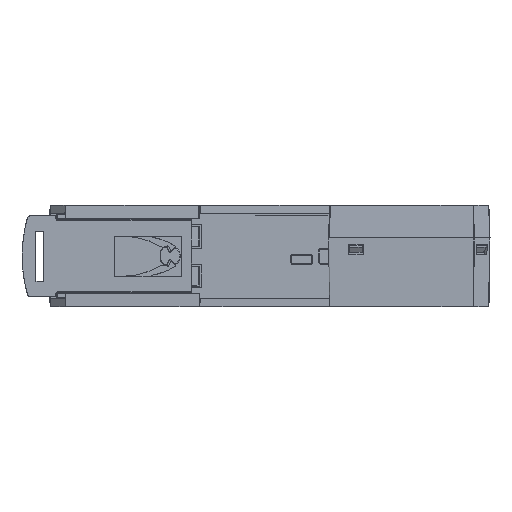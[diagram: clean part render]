
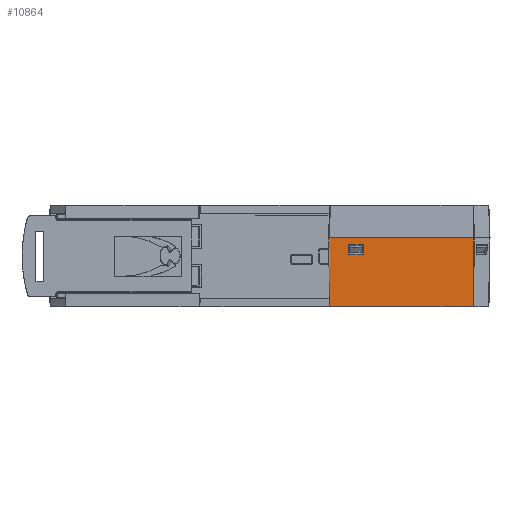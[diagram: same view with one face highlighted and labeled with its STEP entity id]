
A CAD part, front view. The second image highlights one B-rep face of the part: STEP entity #10864.
In plain terms, the highlighted planar face has unit normal (0, -1, -0.018).
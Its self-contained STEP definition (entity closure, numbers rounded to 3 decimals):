
#537 = ORIENTED_EDGE ( 'NONE', *, *, #7679, .F. ) ;
#1053 = CARTESIAN_POINT ( 'NONE',  ( -27.329, -25.719, 4.5 ) ) ;
#1827 = VECTOR ( 'NONE', #14982, 1000. ) ;
#4950 = LINE ( 'NONE', #67375, #137863 ) ;
#5033 = VERTEX_POINT ( 'NONE', #91312 ) ;
#6038 = LINE ( 'NONE', #105195, #73596 ) ;
#7679 = EDGE_CURVE ( 'NONE', #13265, #5033, #121972, .T. ) ;
#8924 = LINE ( 'NONE', #88562, #145239 ) ;
#8986 = VERTEX_POINT ( 'NONE', #41109 ) ;
#9942 = ORIENTED_EDGE ( 'NONE', *, *, #135757, .T. ) ;
#10864 = ADVANCED_FACE ( 'NONE', ( #143639, #156925 ), #144447, .T. ) ;
#13265 = VERTEX_POINT ( 'NONE', #113356 ) ;
#13309 = CARTESIAN_POINT ( 'NONE',  ( -42.229, -25.719, 4.5 ) ) ;
#14982 = DIRECTION ( 'NONE',  ( -1., 0., 0. ) ) ;
#15820 = DIRECTION ( 'NONE',  ( 1., 0., 0. ) ) ;
#17932 = AXIS2_PLACEMENT_3D ( 'NONE', #77837, #39579, #80300 ) ;
#29086 = LINE ( 'NONE', #13309, #1827 ) ;
#32249 = DIRECTION ( 'NONE',  ( -1., 0., 0. ) ) ;
#33772 = VERTEX_POINT ( 'NONE', #1053 ) ;
#35826 = LINE ( 'NONE', #87439, #124347 ) ;
#38034 = VERTEX_POINT ( 'NONE', #71640 ) ;
#38630 = VECTOR ( 'NONE', #105347, 1000. ) ;
#39579 = DIRECTION ( 'NONE',  ( 0., -1., -0.017 ) ) ;
#40587 = ORIENTED_EDGE ( 'NONE', *, *, #79573, .T. ) ;
#41109 = CARTESIAN_POINT ( 'NONE',  ( -22.529, -25.691, 2.9 ) ) ;
#46930 = ORIENTED_EDGE ( 'NONE', *, *, #65934, .F. ) ;
#47913 = VERTEX_POINT ( 'NONE', #107353 ) ;
#48059 = DIRECTION ( 'NONE',  ( 0.007, -0.017, 1. ) ) ;
#48650 = EDGE_LOOP ( 'NONE', ( #9942, #40587, #55765, #95458 ) ) ;
#48746 = LINE ( 'NONE', #64518, #38630 ) ;
#55765 = ORIENTED_EDGE ( 'NONE', *, *, #63096, .T. ) ;
#63096 = EDGE_CURVE ( 'NONE', #38034, #47913, #35826, .T. ) ;
#64518 = CARTESIAN_POINT ( 'NONE',  ( -27.029, -25.419, -12.697 ) ) ;
#65934 = EDGE_CURVE ( 'NONE', #78461, #13265, #4950, .T. ) ;
#67375 = CARTESIAN_POINT ( 'NONE',  ( -42.229, -25.646, 0.3 ) ) ;
#71144 = DIRECTION ( 'NONE',  ( 0., -0.017, 1. ) ) ;
#71640 = CARTESIAN_POINT ( 'NONE',  ( -27.029, -25.419, -12.7 ) ) ;
#73596 = VECTOR ( 'NONE', #107625, 1000. ) ;
#75740 = DIRECTION ( 'NONE',  ( 1., 0., 0. ) ) ;
#77837 = CARTESIAN_POINT ( 'NONE',  ( -42.229, -25.719, 4.5 ) ) ;
#78461 = VERTEX_POINT ( 'NONE', #92607 ) ;
#79573 = EDGE_CURVE ( 'NONE', #33772, #38034, #48746, .T. ) ;
#80300 = DIRECTION ( 'NONE',  ( 0., 0.017, -1. ) ) ;
#84738 = LINE ( 'NONE', #123045, #148425 ) ;
#87439 = CARTESIAN_POINT ( 'NONE',  ( -42.229, -25.419, -12.7 ) ) ;
#88562 = CARTESIAN_POINT ( 'NONE',  ( -42.229, -25.691, 2.9 ) ) ;
#90056 = VERTEX_POINT ( 'NONE', #91120 ) ;
#90378 = ORIENTED_EDGE ( 'NONE', *, *, #119317, .F. ) ;
#91120 = CARTESIAN_POINT ( 'NONE',  ( 8.688, -25.719, 4.5 ) ) ;
#91312 = CARTESIAN_POINT ( 'NONE',  ( -18.829, -25.691, 2.9 ) ) ;
#92607 = CARTESIAN_POINT ( 'NONE',  ( -22.529, -25.646, 0.3 ) ) ;
#95458 = ORIENTED_EDGE ( 'NONE', *, *, #121588, .T. ) ;
#105195 = CARTESIAN_POINT ( 'NONE',  ( -22.529, -25.719, 4.5 ) ) ;
#105347 = DIRECTION ( 'NONE',  ( 0.017, 0.017, -1. ) ) ;
#107353 = CARTESIAN_POINT ( 'NONE',  ( 8.564, -25.419, -12.7 ) ) ;
#107625 = DIRECTION ( 'NONE',  ( 0., 0.017, -1. ) ) ;
#109226 = EDGE_CURVE ( 'NONE', #8986, #78461, #6038, .T. ) ;
#113356 = CARTESIAN_POINT ( 'NONE',  ( -18.829, -25.646, 0.3 ) ) ;
#119317 = EDGE_CURVE ( 'NONE', #5033, #8986, #8924, .T. ) ;
#121588 = EDGE_CURVE ( 'NONE', #47913, #90056, #84738, .T. ) ;
#121972 = LINE ( 'NONE', #148593, #138899 ) ;
#123045 = CARTESIAN_POINT ( 'NONE',  ( 8.686, -25.713, 4.132 ) ) ;
#124347 = VECTOR ( 'NONE', #75740, 1000. ) ;
#128438 = ORIENTED_EDGE ( 'NONE', *, *, #109226, .F. ) ;
#133662 = EDGE_LOOP ( 'NONE', ( #128438, #90378, #537, #46930 ) ) ;
#135757 = EDGE_CURVE ( 'NONE', #90056, #33772, #29086, .T. ) ;
#137863 = VECTOR ( 'NONE', #15820, 1000. ) ;
#138899 = VECTOR ( 'NONE', #71144, 1000. ) ;
#143639 = FACE_BOUND ( 'NONE', #133662, .T. ) ;
#144447 = PLANE ( 'NONE',  #17932 ) ;
#145239 = VECTOR ( 'NONE', #32249, 1000. ) ;
#148425 = VECTOR ( 'NONE', #48059, 1000. ) ;
#148593 = CARTESIAN_POINT ( 'NONE',  ( -18.829, -25.719, 4.5 ) ) ;
#156925 = FACE_OUTER_BOUND ( 'NONE', #48650, .T. ) ;
